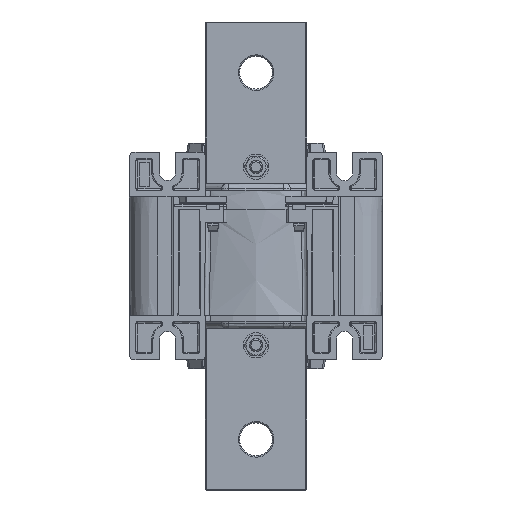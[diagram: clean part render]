
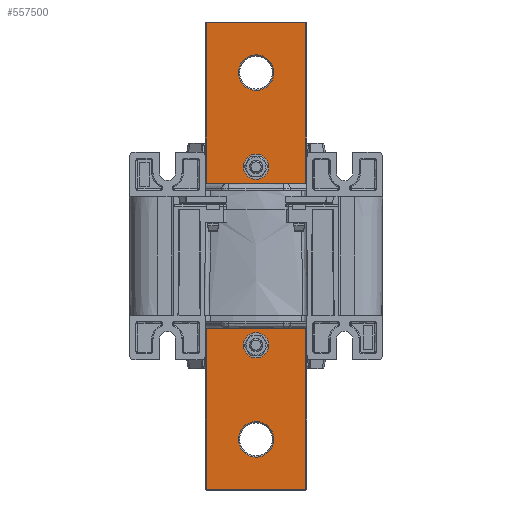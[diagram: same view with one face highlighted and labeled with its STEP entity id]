
A CAD part, front view. The second image highlights one B-rep face of the part: STEP entity #557500.
In plain terms, the highlighted planar face has unit normal (0, -1, 0).
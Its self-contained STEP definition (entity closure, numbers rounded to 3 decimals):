
#527290=CARTESIAN_POINT('',(-19.067,-0.69,36.15))
;
#527300=VERTEX_POINT('',#527290);
#527330=CARTESIAN_POINT('',(-19.105,-0.69,33.95));
#527340=DIRECTION('',(-0.017,0.,-1.));
#527350=VECTOR('',#527340,1.);
#527360=LINE('',#527330,#527350);
#527370=CARTESIAN_POINT('',(-19.328,-0.69,
21.159));
#527380=VERTEX_POINT('',#527370);
#527390=EDGE_CURVE('',#527300,#527380,#527360,.T.);
#531690=CARTESIAN_POINT('',(20.072,-0.69,
21.159));
#531700=VERTEX_POINT('',#531690);
#531730=CARTESIAN_POINT('',(19.848,-0.69,33.95));
#531740=DIRECTION('',(-0.017,0.,1.));
#531750=VECTOR('',#531740,1.);
#531760=LINE('',#531730,#531750);
#531770=CARTESIAN_POINT('',(19.81,-0.69,36.15));
#531780=VERTEX_POINT('',#531770);
#531790=EDGE_CURVE('',#531700,#531780,#531760,.T.);
#541820=CARTESIAN_POINT('',(-19.328,-0.69,36.15));
#541830=VERTEX_POINT('',#541820);
#541860=CARTESIAN_POINT('',(0.,-0.69,36.15));
#541870=DIRECTION('',(1.,0.,0.));
#541880=VECTOR('',#541870,1.);
#541890=LINE('',#541860,#541880);
#541900=EDGE_CURVE('',#541830,#527300,#541890,.T.);
#543080=CARTESIAN_POINT('',(20.072,-0.69,36.15));
#543090=VERTEX_POINT('',#543080);
#543100=EDGE_CURVE('',#531780,#543090,#541890,.T.);
#556430=CARTESIAN_POINT('',(-8.714,-0.69,
-20.828));
#556440=DIRECTION('',(0.,-1.,0.));
#556450=DIRECTION('',(1.,0.,0.));
#556460=AXIS2_PLACEMENT_3D('',#556430,#556440,#556450);
#556470=PLANE('',#556460);
#556480=CARTESIAN_POINT('',(20.072,-0.69,
-20.828));
#556490=DIRECTION('',(0.,0.,-1.));
#556500=VECTOR('',#556490,1.);
#556510=LINE('',#556480,#556500);
#556520=CARTESIAN_POINT('',(20.072,-0.69,107.85))
;
#556530=VERTEX_POINT('',#556520);
#556540=EDGE_CURVE('',#556530,#543090,#556510,.T.);
#556550=ORIENTED_EDGE('',*,*,#556540,.F.);
#556560=ORIENTED_EDGE('',*,*,#543100,.T.);
#556570=ORIENTED_EDGE('',*,*,#531790,.T.);
#556580=CARTESIAN_POINT('',(20.072,-0.69,-76.55))
;
#556590=VERTEX_POINT('',#556580);
#556600=EDGE_CURVE('',#531700,#556590,#556510,.T.);
#556610=ORIENTED_EDGE('',*,*,#556600,.F.);
#556620=CARTESIAN_POINT('',(-8.714,-0.69,-76.55))
;
#556630=DIRECTION('',(1.,0.,0.));
#556640=VECTOR('',#556630,1.);
#556650=LINE('',#556620,#556640);
#556660=CARTESIAN_POINT('',(-19.328,-0.69,
-76.55));
#556670=VERTEX_POINT('',#556660);
#556680=EDGE_CURVE('',#556670,#556590,#556650,.T.);
#556690=ORIENTED_EDGE('',*,*,#556680,.T.);
#556700=CARTESIAN_POINT('',(-19.328,-0.69,
-20.828));
#556710=DIRECTION('',(0.,0.,-1.));
#556720=VECTOR('',#556710,1.);
#556730=LINE('',#556700,#556720);
#556740=EDGE_CURVE('',#527380,#556670,#556730,.T.);
#556750=ORIENTED_EDGE('',*,*,#556740,.T.);
#556760=ORIENTED_EDGE('',*,*,#527390,.T.);
#556770=ORIENTED_EDGE('',*,*,#541900,.T.);
#556780=CARTESIAN_POINT('',(-19.328,-0.69,107.85));
#556790=VERTEX_POINT('',#556780);
#556800=EDGE_CURVE('',#556790,#541830,#556730,.T.);
#556810=ORIENTED_EDGE('',*,*,#556800,.T.);
#556820=CARTESIAN_POINT('',(-8.714,-0.69,107.85))
;
#556830=DIRECTION('',(1.,0.,0.));
#556840=VECTOR('',#556830,1.);
#556850=LINE('',#556820,#556840);
#556860=EDGE_CURVE('',#556790,#556530,#556850,.T.);
#556870=ORIENTED_EDGE('',*,*,#556860,.F.);
#556880=EDGE_LOOP('',(#556870,#556810,#556770,#556760,#556750,#556690,
#556610,#556570,#556560,#556550));
#556890=FACE_OUTER_BOUND('',#556880,.T.);
#556900=CARTESIAN_POINT('',(0.372,-0.69,50.9));
#556910=DIRECTION('',(0.,1.,0.));
#556920=DIRECTION('',(1.,0.,0.));
#556930=AXIS2_PLACEMENT_3D('',#556900,#556910,#556920);
#556940=CIRCLE('',#556930,5.);
#556950=CARTESIAN_POINT('',(5.372,-0.69,50.9));
#556960=VERTEX_POINT('',#556950);
#556970=CARTESIAN_POINT('',(-4.628,-0.69,50.9));
#556980=VERTEX_POINT('',#556970);
#556990=EDGE_CURVE('',#556960,#556980,#556940,.T.);
#557000=ORIENTED_EDGE('',*,*,#556990,.T.);
#557010=EDGE_CURVE('',#556980,#556960,#556940,.T.);
#557020=ORIENTED_EDGE('',*,*,#557010,.T.);
#557030=EDGE_LOOP('',(#557020,#557000));
#557040=FACE_BOUND('',#557030,.T.);
#557050=CARTESIAN_POINT('',(0.372,-0.69,-19.6))
;
#557060=DIRECTION('',(0.,1.,0.));
#557070=DIRECTION('',(1.,0.,0.));
#557080=AXIS2_PLACEMENT_3D('',#557050,#557060,#557070);
#557090=CIRCLE('',#557080,5.);
#557100=CARTESIAN_POINT('',(5.372,-0.69,-19.6));
#557110=VERTEX_POINT('',#557100);
#557120=CARTESIAN_POINT('',(-4.628,-0.69,-19.6))
;
#557130=VERTEX_POINT('',#557120);
#557140=EDGE_CURVE('',#557110,#557130,#557090,.T.);
#557150=ORIENTED_EDGE('',*,*,#557140,.T.);
#557160=EDGE_CURVE('',#557130,#557110,#557090,.T.);
#557170=ORIENTED_EDGE('',*,*,#557160,.T.);
#557180=EDGE_LOOP('',(#557170,#557150));
#557190=FACE_BOUND('',#557180,.T.);
#557200=CARTESIAN_POINT('',(0.372,-0.69,88.15))
;
#557210=DIRECTION('',(0.,-1.,0.));
#557220=DIRECTION('',(1.,0.,0.));
#557230=AXIS2_PLACEMENT_3D('',#557200,#557210,#557220);
#557240=CIRCLE('',#557230,7.);
#557250=CARTESIAN_POINT('',(7.372,-0.69,88.15));
#557260=VERTEX_POINT('',#557250);
#557270=CARTESIAN_POINT('',(-6.628,-0.69,88.15))
;
#557280=VERTEX_POINT('',#557270);
#557290=EDGE_CURVE('',#557260,#557280,#557240,.T.);
#557300=ORIENTED_EDGE('',*,*,#557290,.F.);
#557310=EDGE_CURVE('',#557280,#557260,#557240,.T.);
#557320=ORIENTED_EDGE('',*,*,#557310,.F.);
#557330=EDGE_LOOP('',(#557320,#557300));
#557340=FACE_BOUND('',#557330,.T.);
#557350=CARTESIAN_POINT('',(0.372,-0.69,-56.85)
);
#557360=DIRECTION('',(0.,-1.,0.));
#557370=DIRECTION('',(1.,0.,0.));
#557380=AXIS2_PLACEMENT_3D('',#557350,#557360,#557370);
#557390=CIRCLE('',#557380,7.);
#557400=CARTESIAN_POINT('',(7.372,-0.69,-56.85))
;
#557410=VERTEX_POINT('',#557400);
#557420=CARTESIAN_POINT('',(-6.628,-0.69,-56.85)
);
#557430=VERTEX_POINT('',#557420);
#557440=EDGE_CURVE('',#557410,#557430,#557390,.T.);
#557450=ORIENTED_EDGE('',*,*,#557440,.F.);
#557460=EDGE_CURVE('',#557430,#557410,#557390,.T.);
#557470=ORIENTED_EDGE('',*,*,#557460,.F.);
#557480=EDGE_LOOP('',(#557470,#557450));
#557490=FACE_BOUND('',#557480,.T.);
#557500=ADVANCED_FACE('',(#556890,#557040,#557190,#557340,#557490),
#556470,.T.);
